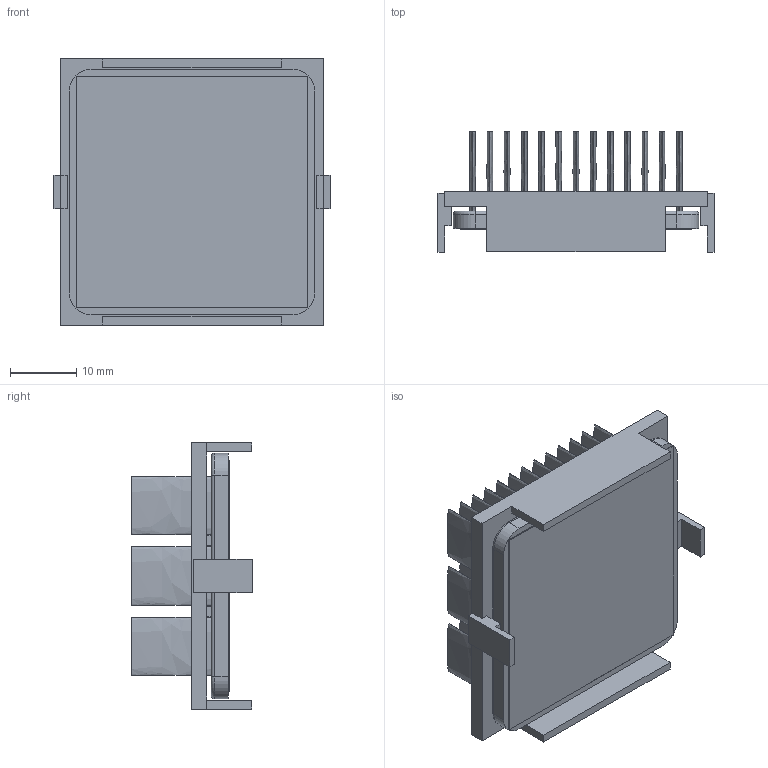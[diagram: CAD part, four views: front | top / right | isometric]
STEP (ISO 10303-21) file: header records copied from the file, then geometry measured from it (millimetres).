
FILE_DESCRIPTION (( 'STEP AP214' ), '1' );
FILE_NAME ('INM37.5001-15W-2.6Y.STEP', '2023-02-21T00:58:08', ( '' ), ( '' ), 'SwSTEP 2.0', 'SolidWorks 2020', '' );
FILE_SCHEMA (( 'AUTOMOTIVE_DESIGN' ));
Length unit declared in the file: inch
Products named in the file (1): INM37.5001-15W-2.6Y
Bounding box: 41.7 x 18.2 x 40.2 mm (x, y, z)
Volume: 8641.2 mm3; surface area: 16775.7 mm2
Topology: 3 solids, 3 shells, 199 faces, 454 edges, 300 vertices
Faces by surface type: plane 109, bspline 78, cylinder 8, torus 4
Entity records: 8371 total; most frequent: CARTESIAN_POINT 1968, ORIENTED_EDGE 908, DIRECTION 562, EDGE_CURVE 454, VERTEX_POINT 300, VECTOR 278, LINE 278, EDGE_LOOP 240
